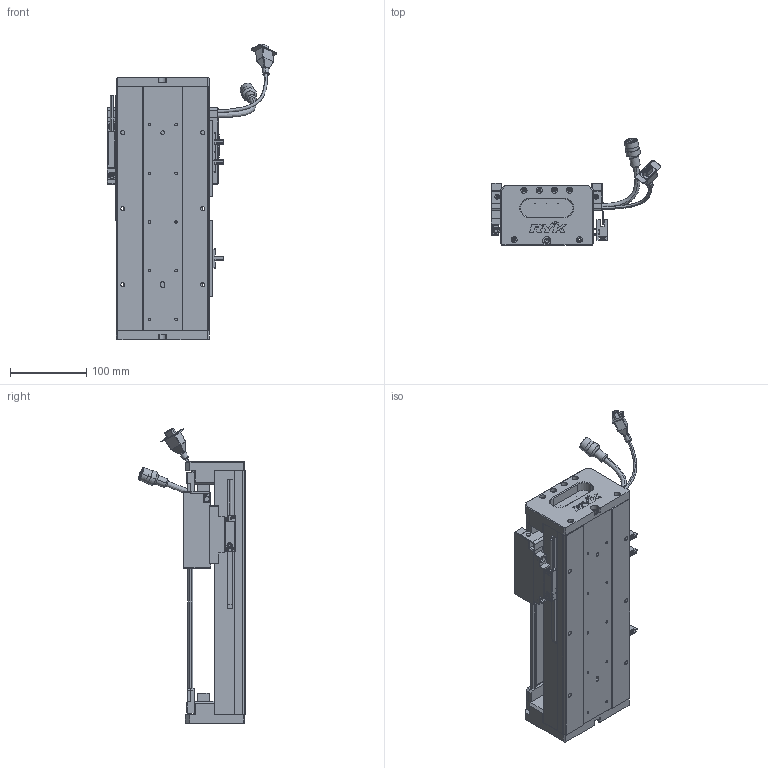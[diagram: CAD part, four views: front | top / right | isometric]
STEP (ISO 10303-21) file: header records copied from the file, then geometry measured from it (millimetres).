
FILE_DESCRIPTION (( 'STEP AP203' ), '1' );
FILE_NAME ('Z1-RY120D-1-L500-B-K.SLDASM_0150.step', '2021-05-17T03:44:16', ( '盈信电脑' ), ( '东莞市道滘镇水果街19号' ), 'SwSTEP 2.0', 'SolidWorks 2016', '' );
FILE_SCHEMA (( 'CONFIG_CONTROL_DESIGN' ));
Length unit declared in the file: millimetre
Products named in the file (37): SCREW-M1.7-1; 覜茼ん672; SCALE; Z1-RY120D-1-L500-B-K.SLDASM_0150; SEAL; SCALE-Part-1; SHIELDPLATE; 140雄赽晤鎢ん堤盄; COVER-Part-1; Z1-RY120-L500詩湍100mm遵_0150; HARNESS; HOLDER0; Z-RY120D詩湍狟揤裔; Z-120詩湍傷裔啣; 080黍杅芛假蚾釱21遴; SCALE-Part-2; PBU_SHEET; Z1-RY120-500-倰第菁釱_0150; Z-RY120D詩湍奻揤裔; RY100FB-遵嫖萇覜茼え; 120-Z-臏賑輸盄裔(21遴); LABEL; Z1-RY120铝滑块（21款）; COVER; LABEL-Part-1; 榋妏寠巭燃_暯_M2_2; PSLH080_PSLF2; HARNESS-Part-1; 140蚥薯蝶輸; SCREW-M1.6-2; SCREW-M1.7; SCREW-M1.6; SEAL-Part-1; HARNESS-Part-2; SCREW-M1.6-3; SCREW-M1.6-1; 672嫖萇羲壽假蚾釱
Assembly tree (43 placements, depth 4):
  Z1-RY120D-1-L500-B-K.SLDASM_0150
    Z1-RY120-500-倰第菁釱_0150
    覜茼ん672  x3
    672嫖萇羲壽假蚾釱  x2
    Z1-RY120铝滑块（21款）
    PSLH080_PSLF2
      SCALE
        SCALE-Part-1
        SCALE-Part-2
      HARNESS
        HARNESS-Part-1
        HARNESS-Part-2
      LABEL
        LABEL-Part-1
      COVER
        COVER-Part-1
      SEAL
        SEAL-Part-1
      榋妏寠巭燃_暯_M2_2
      SHIELDPLATE
      SCREW-M1.7
      SCREW-M1.7-1
      PBU_SHEET
      SCREW-M1.6
      SCREW-M1.6-1
      SCREW-M1.6-2
      SCREW-M1.6-3
      HOLDER0
    080黍杅芛假蚾釱21遴
    120-Z-臏賑輸盄裔(21遴)
    140雄赽晤鎢ん堤盄
    140蚥薯蝶輸  x2
    RY100FB-遵嫖萇覜茼え
    Z-120詩湍傷裔啣  x2
    Z-RY120D詩湍奻揤裔  x2
    Z-RY120D詩湍狟揤裔  x2
    Z1-RY120-L500詩湍100mm遵_0150
Bounding box: 222.88 x 140.94 x 389 mm (x, y, z)
Volume: 1342729.4 mm3; surface area: 450151.7 mm2
Topology: 38 solids, 38 shells, 2341 faces, 6104 edges, 3862 vertices
Faces by surface type: plane 1055, cylinder 946, cone 218, torus 69, bspline 53
Entity records: 64663 total; most frequent: CARTESIAN_POINT 15332, DIRECTION 9576, ORIENTED_EDGE 9296, EDGE_CURVE 4648, AXIS2_PLACEMENT_3D 3452, VERTEX_POINT 2982, VECTOR 2672, LINE 2672
